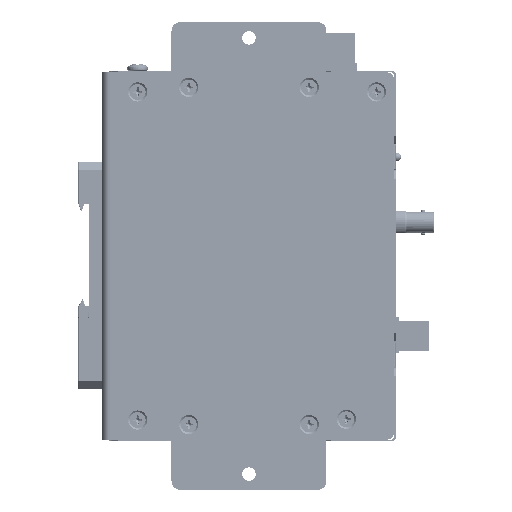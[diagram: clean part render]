
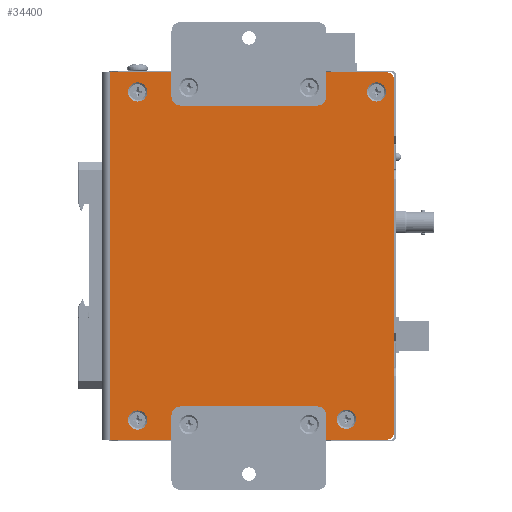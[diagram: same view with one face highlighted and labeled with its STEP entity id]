
A CAD part, left-side view. The second image highlights one B-rep face of the part: STEP entity #34400.
In plain terms, the highlighted planar face has unit normal (-1, 0, 0).
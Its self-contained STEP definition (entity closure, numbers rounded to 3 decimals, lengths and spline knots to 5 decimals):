
#1886=CIRCLE('',#39422,0.00324);
#1887=CIRCLE('',#39423,0.00324);
#1888=CIRCLE('',#39424,0.00324);
#1889=CIRCLE('',#39425,0.00324);
#1890=CIRCLE('',#39426,0.00324);
#1891=CIRCLE('',#39427,0.00324);
#1892=CIRCLE('',#39428,0.00324);
#1893=CIRCLE('',#39429,0.00324);
#1894=CIRCLE('',#39430,0.00254);
#1895=CIRCLE('',#39431,0.00254);
#3846=LINE('',#62501,#6892);
#3850=LINE('',#62510,#6896);
#3856=LINE('',#62524,#6902);
#3858=LINE('',#62546,#6904);
#6892=VECTOR('',#44430,1.);
#6896=VECTOR('',#44436,1.);
#6902=VECTOR('',#44444,1.);
#6904=VECTOR('',#44468,1.);
#12134=ORIENTED_EDGE('',*,*,#20366,.F.);
#12135=ORIENTED_EDGE('',*,*,#20367,.F.);
#12136=ORIENTED_EDGE('',*,*,#20368,.F.);
#12137=ORIENTED_EDGE('',*,*,#20369,.F.);
#12138=ORIENTED_EDGE('',*,*,#20370,.F.);
#12139=ORIENTED_EDGE('',*,*,#20371,.F.);
#12140=ORIENTED_EDGE('',*,*,#20372,.F.);
#12141=ORIENTED_EDGE('',*,*,#20373,.F.);
#12142=ORIENTED_EDGE('',*,*,#20364,.F.);
#12143=ORIENTED_EDGE('',*,*,#20374,.T.);
#12144=ORIENTED_EDGE('',*,*,#20354,.T.);
#12145=ORIENTED_EDGE('',*,*,#20375,.T.);
#12146=ORIENTED_EDGE('',*,*,#20358,.T.);
#12147=ORIENTED_EDGE('',*,*,#20376,.F.);
#20354=EDGE_CURVE('',#24770,#24771,#3846,.T.);
#20358=EDGE_CURVE('',#24774,#24775,#3850,.T.);
#20364=EDGE_CURVE('',#24780,#24781,#3856,.T.);
#20366=EDGE_CURVE('',#24782,#24782,#1886,.T.);
#20367=EDGE_CURVE('',#24783,#24783,#1887,.T.);
#20368=EDGE_CURVE('',#24784,#24784,#1888,.T.);
#20369=EDGE_CURVE('',#24785,#24785,#1889,.T.);
#20370=EDGE_CURVE('',#24786,#24786,#1890,.T.);
#20371=EDGE_CURVE('',#24787,#24787,#1891,.T.);
#20372=EDGE_CURVE('',#24788,#24788,#1892,.T.);
#20373=EDGE_CURVE('',#24789,#24789,#1893,.T.);
#20374=EDGE_CURVE('',#24780,#24770,#1894,.T.);
#20375=EDGE_CURVE('',#24771,#24774,#1895,.T.);
#20376=EDGE_CURVE('',#24781,#24775,#3858,.F.);
#24770=VERTEX_POINT('',#62502);
#24771=VERTEX_POINT('',#62503);
#24774=VERTEX_POINT('',#62511);
#24775=VERTEX_POINT('',#62512);
#24780=VERTEX_POINT('',#62523);
#24781=VERTEX_POINT('',#62525);
#24782=VERTEX_POINT('',#62529);
#24783=VERTEX_POINT('',#62531);
#24784=VERTEX_POINT('',#62533);
#24785=VERTEX_POINT('',#62535);
#24786=VERTEX_POINT('',#62537);
#24787=VERTEX_POINT('',#62539);
#24788=VERTEX_POINT('',#62541);
#24789=VERTEX_POINT('',#62543);
#27981=EDGE_LOOP('',(#12134));
#27982=EDGE_LOOP('',(#12135));
#27983=EDGE_LOOP('',(#12136));
#27984=EDGE_LOOP('',(#12137));
#27985=EDGE_LOOP('',(#12138));
#27986=EDGE_LOOP('',(#12139));
#27987=EDGE_LOOP('',(#12140));
#27988=EDGE_LOOP('',(#12141));
#27989=EDGE_LOOP('',(#12142,#12143,#12144,#12145,#12146,#12147));
#30683=FACE_BOUND('',#27981,.T.);
#30684=FACE_BOUND('',#27982,.T.);
#30685=FACE_BOUND('',#27983,.T.);
#30686=FACE_BOUND('',#27984,.T.);
#30687=FACE_BOUND('',#27985,.T.);
#30688=FACE_BOUND('',#27986,.T.);
#30689=FACE_BOUND('',#27987,.T.);
#30690=FACE_BOUND('',#27988,.T.);
#30691=FACE_BOUND('',#27989,.T.);
#33054=PLANE('',#39421);
#34400=ADVANCED_FACE('',(#30683,#30684,#30685,#30686,#30687,#30688,#30689,
#30690,#30691),#33054,.T.);
#39421=AXIS2_PLACEMENT_3D('',#62527,#44446,#44447);
#39422=AXIS2_PLACEMENT_3D('',#62528,#44448,#44449);
#39423=AXIS2_PLACEMENT_3D('',#62530,#44450,#44451);
#39424=AXIS2_PLACEMENT_3D('',#62532,#44452,#44453);
#39425=AXIS2_PLACEMENT_3D('',#62534,#44454,#44455);
#39426=AXIS2_PLACEMENT_3D('',#62536,#44456,#44457);
#39427=AXIS2_PLACEMENT_3D('',#62538,#44458,#44459);
#39428=AXIS2_PLACEMENT_3D('',#62540,#44460,#44461);
#39429=AXIS2_PLACEMENT_3D('',#62542,#44462,#44463);
#39430=AXIS2_PLACEMENT_3D('',#62544,#44464,#44465);
#39431=AXIS2_PLACEMENT_3D('',#62545,#44466,#44467);
#44430=DIRECTION('',(0.,0.,1.));
#44436=DIRECTION('',(0.,1.,0.));
#44444=DIRECTION('',(0.,1.,0.));
#44446=DIRECTION('',(-1.,0.,0.));
#44447=DIRECTION('',(0.,0.,1.));
#44448=DIRECTION('',(-1.,0.,0.));
#44449=DIRECTION('',(0.,0.,1.));
#44450=DIRECTION('',(-1.,0.,0.));
#44451=DIRECTION('',(0.,0.,1.));
#44452=DIRECTION('',(-1.,0.,0.));
#44453=DIRECTION('',(0.,0.,1.));
#44454=DIRECTION('',(-1.,0.,0.));
#44455=DIRECTION('',(0.,0.,1.));
#44456=DIRECTION('',(-1.,0.,0.));
#44457=DIRECTION('',(0.,0.,1.));
#44458=DIRECTION('',(-1.,0.,0.));
#44459=DIRECTION('',(0.,0.,1.));
#44460=DIRECTION('',(-1.,0.,0.));
#44461=DIRECTION('',(0.,0.,1.));
#44462=DIRECTION('',(-1.,0.,0.));
#44463=DIRECTION('',(0.,0.,1.));
#44464=DIRECTION('',(-1.,0.,0.));
#44465=DIRECTION('',(0.,0.,1.));
#44466=DIRECTION('',(-1.,0.,0.));
#44467=DIRECTION('',(0.,0.,1.));
#44468=DIRECTION('',(0.,0.,-1.));
#62501=CARTESIAN_POINT('',(-0.01524,-0.09703,0.));
#62502=CARTESIAN_POINT('',(-0.01524,-0.09703,-0.05944));
#62503=CARTESIAN_POINT('',(-0.01524,-0.09703,0.05944));
#62510=CARTESIAN_POINT('',(-0.01524,-0.09703,0.06198));
#62511=CARTESIAN_POINT('',(-0.01524,-0.09449,0.06198));
#62512=CARTESIAN_POINT('',(-0.01524,-0.00102,0.06198));
#62523=CARTESIAN_POINT('',(-0.01524,-0.09449,-0.06198));
#62524=CARTESIAN_POINT('',(-0.01524,-0.09703,-0.06198));
#62525=CARTESIAN_POINT('',(-0.01524,-0.00102,-0.06198));
#62527=CARTESIAN_POINT('',(-0.01524,-0.09703,0.));
#62528=CARTESIAN_POINT('',(-0.01524,-0.02769,0.0569));
#62529=CARTESIAN_POINT('',(-0.01524,-0.02769,0.06013));
#62530=CARTESIAN_POINT('',(-0.01524,-0.06833,0.0569));
#62531=CARTESIAN_POINT('',(-0.01524,-0.06833,0.06013));
#62532=CARTESIAN_POINT('',(-0.01524,-0.09106,0.05537));
#62533=CARTESIAN_POINT('',(-0.01524,-0.09106,0.05861));
#62534=CARTESIAN_POINT('',(-0.01524,-0.0809,-0.05512));
#62535=CARTESIAN_POINT('',(-0.01524,-0.0809,-0.05188));
#62536=CARTESIAN_POINT('',(-0.01524,-0.06833,-0.0569));
#62537=CARTESIAN_POINT('',(-0.01524,-0.06833,-0.05366));
#62538=CARTESIAN_POINT('',(-0.01524,-0.02769,-0.0569));
#62539=CARTESIAN_POINT('',(-0.01524,-0.02769,-0.05366));
#62540=CARTESIAN_POINT('',(-0.01524,-0.01041,-0.05537));
#62541=CARTESIAN_POINT('',(-0.01524,-0.01041,-0.05213));
#62542=CARTESIAN_POINT('',(-0.01524,-0.01041,0.05537));
#62543=CARTESIAN_POINT('',(-0.01524,-0.01041,0.05861));
#62544=CARTESIAN_POINT('',(-0.01524,-0.09449,-0.05944));
#62545=CARTESIAN_POINT('',(-0.01524,-0.09449,0.05944));
#62546=CARTESIAN_POINT('',(-0.01524,-0.00102,0.));
